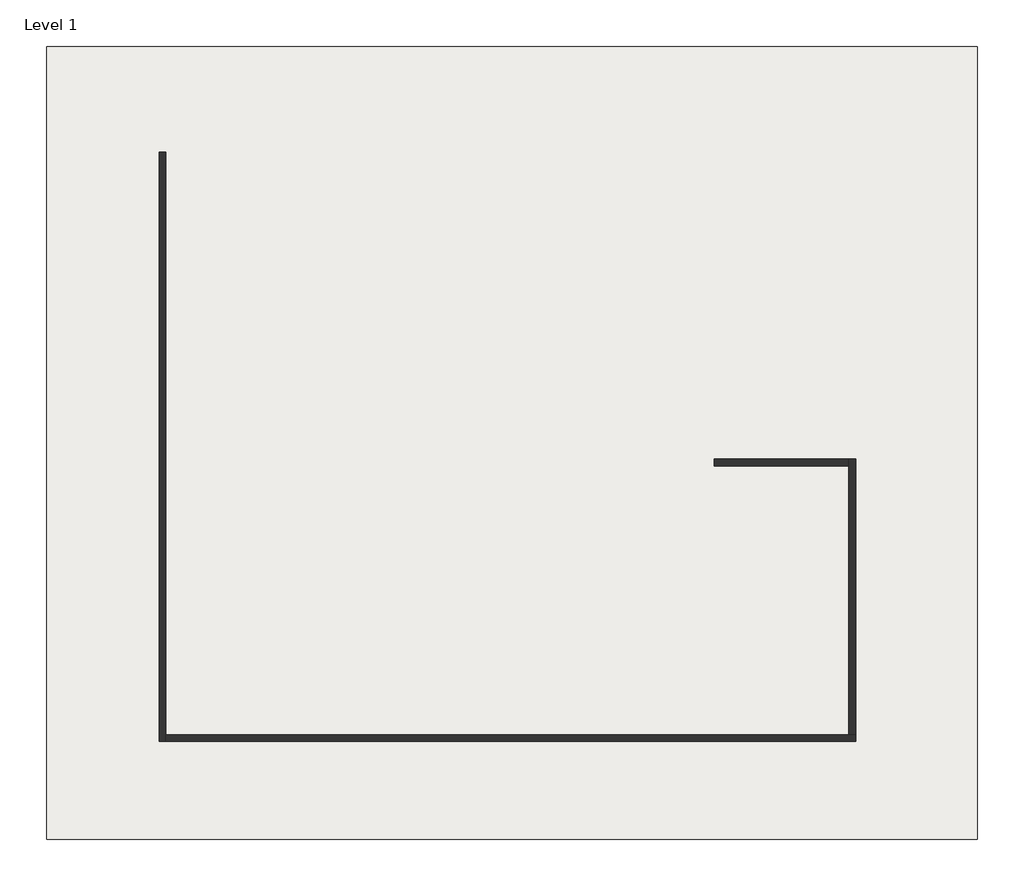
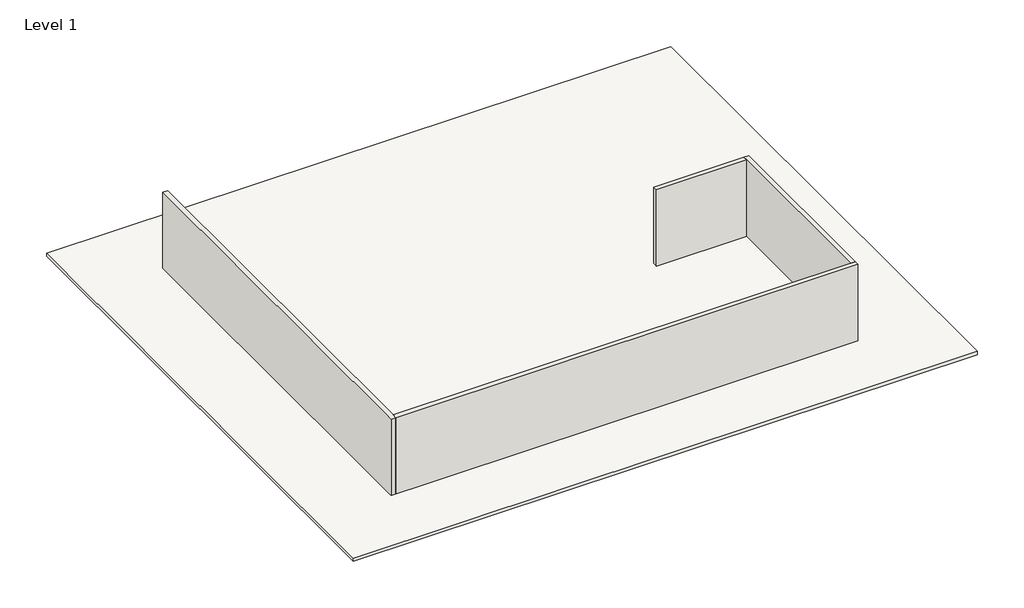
# One storey: 4 walls, 1 slab.
"""IFC4 building model written with IfcOpenShell, lengths in millimetres."""

import ifcopenshell
import ifcopenshell.guid

model = None  # the IFC model being written
_history = None  # IfcOwnerHistory: only IFC2X3 demands one
_inside = {}  # id of a spatial element -> (the spatial element, [elements in it])
_under = {}  # id of a project, library or spatial element -> (it, [spatial elements below it])
_declared = {}  # id of a project -> (the project, [libraries it declares])
_typed = {}  # id of a type object -> (the type object, [elements of that type])
_made_of = {}  # id of a material, layer set ... -> (it, [elements and type objects made of it])


def new_model(schema):
    """Start an empty IFC model of exactly this schema.

    Asked for "IFC4X3", IfcOpenShell would pick the latest addendum, in which some entities
    have other attributes; the version numbers below select the first issue.
    IFC2X3 requires an IfcOwnerHistory on every rooted entity: one is made here for all.
    """
    global model, _history
    if schema == "IFC4X3":
        model = ifcopenshell.file(schema_version=(4, 3, 0, 0))
    else:
        model = ifcopenshell.file(schema=schema)
    _inside.clear()
    _under.clear()
    _declared.clear()
    _typed.clear()
    _made_of.clear()
    _history = None
    if model.schema == "IFC2X3":
        org = make("IfcOrganization", Name="unknown")
        user = make(
            "IfcPersonAndOrganization",
            ThePerson=make("IfcPerson", FamilyName="unknown"),
            TheOrganization=org,
        )
        app = make(
            "IfcApplication",
            ApplicationDeveloper=org,
            Version="unknown",
            ApplicationFullName="unknown",
            ApplicationIdentifier="unknown",
        )
        _history = make(
            "IfcOwnerHistory",
            OwningUser=user,
            OwningApplication=app,
            ChangeAction="ADDED",
            CreationDate=0,
        )
    return model


def make(cls, **values):
    """One entity of the class cls with the attributes given. An attribute that is None is left unset."""
    return model.create_entity(
        cls, **{name: value for name, value in values.items() if value is not None}
    )


def rooted(cls, **values):
    """An entity with a GlobalId (a new one), such as an element, a storey or a relation."""
    return make(cls, GlobalId=ifcopenshell.guid.new(), OwnerHistory=_history, **values)


def si_unit(unit_type, name, prefix=None):
    """IfcSIUnit, for example si_unit("LENGTHUNIT", "METRE", prefix="MILLI")."""
    return make("IfcSIUnit", UnitType=unit_type, Prefix=prefix, Name=name)


def assignment(units):
    """IfcUnitAssignment: the units of a project."""
    return None if units is None else make("IfcUnitAssignment", Units=units)


def point(xyz):
    """IfcCartesianPoint."""
    return None if xyz is None else make("IfcCartesianPoint", Coordinates=xyz)


def direction(xyz):
    """IfcDirection."""
    return None if xyz is None else make("IfcDirection", DirectionRatios=xyz)


def frame(location, z_axis=None, x_axis=None):
    """IfcAxis2Placement3D, a coordinate frame: its origin and axes. An axis left out is left unset."""
    return make(
        "IfcAxis2Placement3D",
        Location=point(location),
        Axis=direction(z_axis),
        RefDirection=direction(x_axis),
    )


def origin():
    """The frame at (0, 0, 0) with its axes left unset."""
    return frame((0.0, 0.0, 0.0))


def origin_with_axes():
    """The frame at (0, 0, 0) with the z axis (0, 0, 1) and the x axis (1, 0, 0) written out."""
    return frame((0.0, 0.0, 0.0), z_axis=(0.0, 0.0, 1.0), x_axis=(1.0, 0.0, 0.0))


def place(relative_to, where):
    """IfcLocalPlacement: puts the frame where relative to a parent placement (None: the world)."""
    return make(
        "IfcLocalPlacement", PlacementRelTo=relative_to, RelativePlacement=where
    )


def context(
    kind, dimensions, precision=None, world=None, true_north=None, identifier=None
):
    """IfcGeometricRepresentationContext, for example the 3D "Model" context."""
    return make(
        "IfcGeometricRepresentationContext",
        ContextIdentifier=identifier,
        ContextType=kind,
        CoordinateSpaceDimension=dimensions,
        Precision=precision,
        WorldCoordinateSystem=world,
        TrueNorth=true_north,
    )


def project(units=None, contexts=None):
    """IfcProject with its units and contexts."""
    return rooted(
        "IfcProject",
        Name="project",
        RepresentationContexts=contexts,
        UnitsInContext=assignment(units),
    )


def spatial(cls, under=None, at=None, **own):
    """A site, building, storey or space (cls), placed at a placement, below another one or the project."""
    s = rooted(cls, ObjectPlacement=at, **own)
    if under is not None:
        _under.setdefault(under.id(), (under, []))[1].append(s)
    return s


def polyline(points):
    """IfcPolyline through the points."""
    return make("IfcPolyline", Points=[point(p) for p in points])


def outline(outer, holes=None, kind="AREA"):
    """IfcArbitraryClosedProfileDef: a profile drawn as a closed curve; with holes, ...WithVoids."""
    if holes is None:
        return make("IfcArbitraryClosedProfileDef", ProfileType=kind, OuterCurve=outer)
    return make(
        "IfcArbitraryProfileDefWithVoids",
        ProfileType=kind,
        OuterCurve=outer,
        InnerCurves=holes,
    )


def extrude(swept, where, along, depth):
    """IfcExtrudedAreaSolid: the profile swept, set in the frame where, extruded along a direction by depth."""
    return make(
        "IfcExtrudedAreaSolid",
        SweptArea=swept,
        Position=where,
        ExtrudedDirection=direction(along),
        Depth=depth,
    )


def faces_of(points, faces, orient=None, outer=None):
    """IfcFace entities. A face is a list of loops; a loop is a list of indices into points, from 0.

    orient and outer hold one flag for each loop. By default every Orientation is true, the
    first loop of a face is its IfcFaceOuterBound and the others are IfcFaceBound.
    """
    made = []
    for i, loops in enumerate(faces):
        bounds = []
        for j, loop in enumerate(loops):
            is_outer = j == 0 if outer is None else outer[i][j]
            bounds.append(
                make(
                    "IfcFaceOuterBound" if is_outer else "IfcFaceBound",
                    Bound=make("IfcPolyLoop", Polygon=[points[k] for k in loop]),
                    Orientation=True if orient is None else orient[i][j],
                )
            )
        made.append(make("IfcFace", Bounds=bounds))
    return made


def faceted_brep(points, faces, orient=None, outer=None, voids=None):
    """IfcFacetedBrep: a solid bounded by flat faces; with voids (closed shells), ...WithVoids."""
    shared = [point(p) for p in points]
    hull = make("IfcClosedShell", CfsFaces=faces_of(shared, faces, orient, outer))
    if voids is None:
        return make("IfcFacetedBrep", Outer=hull)
    return make(
        "IfcFacetedBrepWithVoids",
        Outer=hull,
        Voids=[
            make(cls, CfsFaces=faces_of(shared, fs, o, b)) for cls, fs, o, b in voids
        ],
    )


def shape(context_of_items, identifier, shape_type, items):
    """IfcShapeRepresentation: the items that make up one representation, for example the "Body"."""
    return make(
        "IfcShapeRepresentation",
        ContextOfItems=context_of_items,
        RepresentationIdentifier=identifier,
        RepresentationType=shape_type,
        Items=items,
    )


def made_of(thing, what):
    """Note that an element or type object is made of a material, layer set ...; save() writes the relation."""
    if what is not None:
        _made_of.setdefault(what.id(), (what, []))[1].append(thing)
    return thing


def element(
    cls,
    number,
    at=None,
    inside=None,
    cuts=None,
    type_object=None,
    material=None,
    context=None,
    identifier="Body",
    shape_type=None,
    held_by="IfcProductDefinitionShape",
    body=None,
    shapes=None,
    **own,
):
    """One element of the class cls, such as IfcWall. Its Tag is "e" and its number.

    at: its placement. inside: the storey or other place that contains it. cuts: it is an
    opening in that element (IfcRelVoidsElement). A single representation is given by context,
    identifier, shape_type and body (its items); several are given by shapes. held_by: the class
    of the entity that holds the representations. save() writes the other relations.
    """
    e = rooted(cls, Tag="e%d" % number, ObjectPlacement=at, **own)
    if body is not None:
        shapes = [shape(context, identifier, shape_type, body)]
    if shapes is not None:
        e.Representation = make(held_by, Representations=shapes)
    if inside is not None:
        _inside.setdefault(inside.id(), (inside, []))[1].append(e)
    if cuts is not None:
        rooted(
            "IfcRelVoidsElement", RelatingBuildingElement=cuts, RelatedOpeningElement=e
        )
    if type_object is not None:
        _typed.setdefault(type_object.id(), (type_object, []))[1].append(e)
    return made_of(e, material)


def aggregate(whole, parts):
    """IfcRelAggregates: a whole, such as a stair, and the parts it consists of."""
    return rooted("IfcRelAggregates", RelatingObject=whole, RelatedObjects=parts)


def save(model, path):
    """Write the relations noted so far, then the file.

    IfcRelAggregates (storeys below a building ...), IfcRelContainedInSpatialStructure (elements
    in a storey), IfcRelDefinesByType, IfcRelAssociatesMaterial and IfcRelDeclares: one each for
    every whole, place, type object, material and project.
    """
    for whole, parts in _under.values():
        aggregate(whole, parts)
    for where, things in _inside.values():
        rooted(
            "IfcRelContainedInSpatialStructure",
            RelatedElements=things,
            RelatingStructure=where,
        )
    for kind, things in _typed.values():
        rooted("IfcRelDefinesByType", RelatedObjects=things, RelatingType=kind)
    for what, things in _made_of.values():
        rooted("IfcRelAssociatesMaterial", RelatedObjects=things, RelatingMaterial=what)
    for by, libraries in _declared.values():
        rooted("IfcRelDeclares", RelatingContext=by, RelatedDefinitions=libraries)
    model.write(path)


model = new_model("IFC4")

# Units and contexts
model_context = context("Model", 3, world=origin())
ifc_project = project(units=[si_unit("LENGTHUNIT", "METRE", prefix="MILLI")], contexts=[model_context])

# Site, building, storey
site = spatial("IfcSite", under=ifc_project)
building = spatial("IfcBuilding", under=site)
storey = spatial("IfcBuildingStorey", under=building, Name="Level 1", Elevation=0.0)

# Slab
placement = place(None, origin())
element("IfcSlab", 1, ObjectType="Generic 150mm", at=placement, inside=storey, context=model_context, shape_type="SweptSolid", body=[
    extrude(outline(polyline([(-15360.3075125, -9742.4743756), (-15360.3075125, 13257.5256244), (11639.6924875, 13257.5256244), (11639.6924875, -9742.4743756), (-15360.3075125, -9742.4743756)])), frame((0.0, 0.0, -150.0), z_axis=(0.0, 0.0, 1.0), x_axis=(1.0, 0.0, 0.0)), (0.0, 0.0, 1.0), 150.0),
])

# Walls
element("IfcWall", 2, ObjectType="Generic - 200mm", at=placement, inside=storey, context=model_context, shape_type="Brep", body=[
    faceted_brep([(-12096.9925344, 10187.7933302, 0.0), (-12096.9925344, -6912.2066698, 0.0), (-12096.9925344, -6912.2066698, 3500.0), (-12096.9925344, 10187.7933302, 3500.0), (-11896.9925344, 10187.7933302, 0.0), (-11896.9925344, 10187.7933302, 3500.0), (-11896.9925344, -6712.2066698, 3500.0), (-11896.9925344, -6912.2066698, 3500.0), (-11896.9925344, -6912.2066698, 0.0), (-11896.9925344, -6712.2066698, 0.0)], [[[0, 1, 2, 3]], [[4, 5, 6, 7, 8, 9]], [[1, 0, 4, 9, 8]], [[3, 2, 7, 6, 5]], [[0, 3, 5, 4]], [[2, 1, 8, 7]]]),
])
element("IfcWall", 3, ObjectType="Generic - 200mm", at=placement, inside=storey, context=model_context, shape_type="Brep", body=[
    faceted_brep([(-11896.9925344, -6912.2066698, 0.0), (8103.0074656, -6912.2066698, 0.0), (8103.0074656, -6912.2066698, 3500.0), (-11896.9925344, -6912.2066698, 3500.0), (-11896.9925344, -6712.2066698, 0.0), (-11896.9925344, -6712.2066698, 3500.0), (7903.0074656, -6712.2066698, 3500.0), (8103.0074656, -6712.2066698, 3500.0), (8103.0074656, -6712.2066698, 0.0), (7903.0074656, -6712.2066698, 0.0)], [[[0, 1, 2, 3]], [[4, 5, 6, 7, 8, 9]], [[1, 0, 4, 9, 8]], [[3, 2, 7, 6, 5]], [[2, 1, 8, 7]], [[0, 3, 5, 4]]]),
])
element("IfcWall", 4, ObjectType="Generic - 200mm", at=placement, inside=storey, context=model_context, shape_type="Brep", body=[
    faceted_brep([(8103.0074656, -6712.2066698, 0.0), (8103.0074656, 1287.7933302, 0.0), (8103.0074656, 1287.7933302, 3500.0), (8103.0074656, -6712.2066698, 3500.0), (7903.0074656, -6712.2066698, 0.0), (7903.0074656, -6712.2066698, 3500.0), (7903.0074656, 1087.7933302, 3500.0), (7903.0074656, 1287.7933302, 3500.0), (7903.0074656, 1287.7933302, 0.0), (7903.0074656, 1087.7933302, 0.0)], [[[0, 1, 2, 3]], [[4, 5, 6, 7, 8, 9]], [[1, 0, 4, 9, 8]], [[3, 2, 7, 6, 5]], [[2, 1, 8, 7]], [[0, 3, 5, 4]]]),
])
element("IfcWall", 5, ObjectType="Generic - 200mm", at=placement, inside=storey, context=model_context, shape_type="SweptSolid", body=[
    extrude(outline(polyline([(4003.0074656, 1287.7933302), (7903.0074656, 1287.7933302), (7903.0074656, 1087.7933302), (4003.0074656, 1087.7933302), (4003.0074656, 1287.7933302)])), origin_with_axes(), (0.0, 0.0, 1.0), 3500.0),
])

save(model, "model.ifc")
